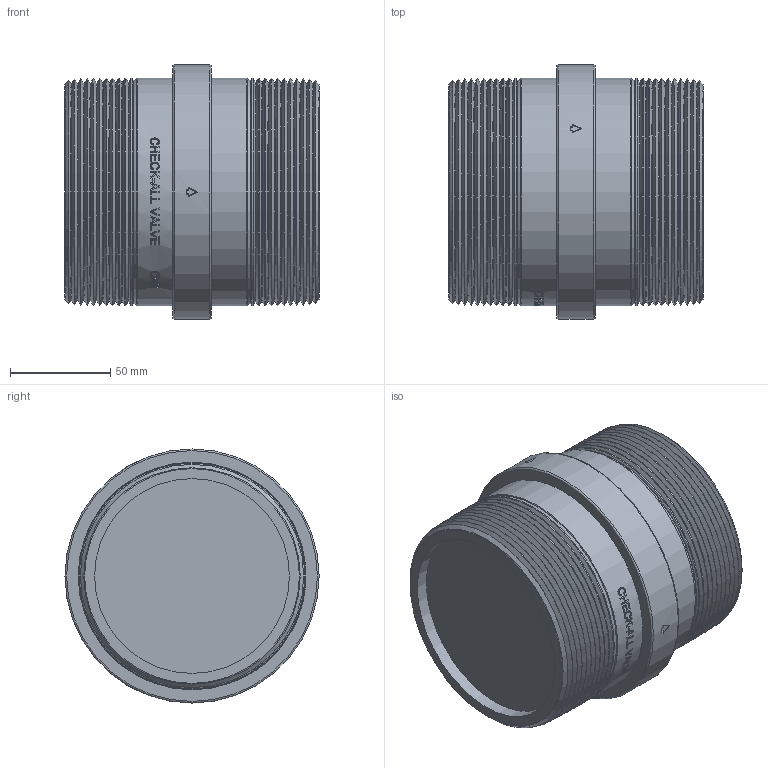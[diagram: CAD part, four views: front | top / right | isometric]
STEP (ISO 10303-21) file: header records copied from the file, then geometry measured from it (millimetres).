
FILE_DESCRIPTION( ( 'Unknown' ), '1' );
FILE_NAME( 'Y:/ENGR/3D Solid Edge Models/CN/CNN.stp', 'Unknown', ( 'Unknown' ), ( 'Unknown' ), 'PSStep 14.0', 'Unknown', ' ' );
FILE_SCHEMA( ( 'AUTOMOTIVE_DESIGN { 1 0 10303 214 1 1 1 1 }' ) );
Length unit declared in the file: inch
Products named in the file (1): 1
Bounding box: 127.13 x 127 x 127 mm (x, y, z)
Volume: 1213305.5 mm3; surface area: 92195.7 mm2
Topology: 1 solids, 1 shells, 312 faces, 765 edges, 484 vertices
Faces by surface type: plane 133, cone 60, bspline 53, cylinder 40, torus 26
Full cylindrical faces by diameter (mm): 97.384 x2, 113.817 x12, 127 x1
Entity records: 12996 total; most frequent: CARTESIAN_POINT 4824, ORIENTED_EDGE 1292, DIRECTION 732, EDGE_CURVE 646, B_SPLINE_CURVE_WITH_KNOTS 540, VERTEX_POINT 466, EDGE_LOOP 442, AXIS2_PLACEMENT_3D 366
